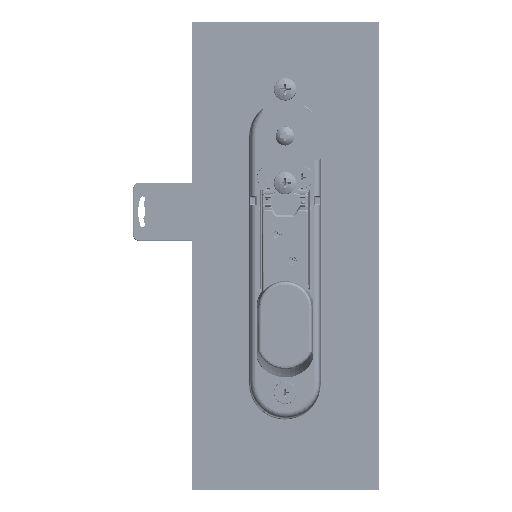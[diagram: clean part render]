
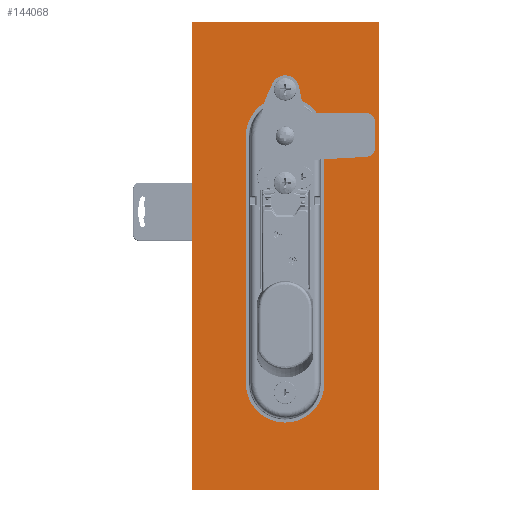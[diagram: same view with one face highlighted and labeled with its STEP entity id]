
A CAD part, front view. The second image highlights one B-rep face of the part: STEP entity #144068.
In plain terms, the highlighted planar face has unit normal (0, -1, 0) as drawn and (0, 0, 1) by its records, which use the part's own axes.
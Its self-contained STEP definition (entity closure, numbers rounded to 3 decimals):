
#143875=DIRECTION('',(0.,1.,0.));
#143876=VECTOR('',#143875,250.);
#143877=CARTESIAN_POINT('',(-50.,-125.,2.));
#143878=LINE('',#143877,#143876);
#143879=DIRECTION('',(1.,0.,0.));
#143880=VECTOR('',#143879,100.);
#143881=CARTESIAN_POINT('',(-50.,125.,2.));
#143882=LINE('',#143881,#143880);
#143883=DIRECTION('',(0.,-1.,0.));
#143884=VECTOR('',#143883,250.);
#143885=CARTESIAN_POINT('',(50.,125.,2.));
#143886=LINE('',#143885,#143884);
#143887=DIRECTION('',(-1.,0.,0.));
#143888=VECTOR('',#143887,100.);
#143889=CARTESIAN_POINT('',(50.,-125.,2.));
#143890=LINE('',#143889,#143888);
#143891=CARTESIAN_POINT('',(0.,64.,2.));
#143892=DIRECTION('',(0.,0.,1.));
#143893=DIRECTION('',(1.,0.,0.));
#143894=AXIS2_PLACEMENT_3D('',#143891,#143892,#143893);
#143896=DIRECTION('',(0.,-1.,0.));
#143897=VECTOR('',#143896,128.);
#143898=CARTESIAN_POINT('',(-16.,64.,2.));
#143899=LINE('',#143898,#143897);
#143900=CARTESIAN_POINT('',(0.,-64.,2.));
#143901=DIRECTION('',(0.,0.,1.));
#143902=DIRECTION('',(-1.,0.,0.));
#143903=AXIS2_PLACEMENT_3D('',#143900,#143901,#143902);
#143905=DIRECTION('',(0.,1.,0.));
#143906=VECTOR('',#143905,128.);
#143907=CARTESIAN_POINT('',(16.,-64.,2.));
#143908=LINE('',#143907,#143906);
#143949=CARTESIAN_POINT('',(-50.,125.,2.));
#143950=VERTEX_POINT('',#143949);
#143951=CARTESIAN_POINT('',(-50.,-125.,2.));
#143952=VERTEX_POINT('',#143951);
#143953=CARTESIAN_POINT('',(50.,125.,2.));
#143954=VERTEX_POINT('',#143953);
#143955=CARTESIAN_POINT('',(50.,-125.,2.));
#143956=VERTEX_POINT('',#143955);
#143957=CARTESIAN_POINT('',(16.,64.,2.));
#143958=CARTESIAN_POINT('',(-16.,64.,2.));
#143959=VERTEX_POINT('',#143957);
#143960=VERTEX_POINT('',#143958);
#143961=CARTESIAN_POINT('',(-16.,-64.,2.));
#143962=VERTEX_POINT('',#143961);
#143963=CARTESIAN_POINT('',(16.,-64.,2.));
#143964=VERTEX_POINT('',#143963);
#144047=CARTESIAN_POINT('',(0.,0.,2.));
#144048=DIRECTION('',(0.,0.,1.));
#144049=DIRECTION('',(1.,0.,0.));
#144050=AXIS2_PLACEMENT_3D('',#144047,#144048,#144049);
#144051=PLANE('',#144050);
#144052=ORIENTED_EDGE('',*,*,#143999,.T.);
#144053=ORIENTED_EDGE('',*,*,#144014,.T.);
#144054=ORIENTED_EDGE('',*,*,#144028,.T.);
#144055=ORIENTED_EDGE('',*,*,#144041,.T.);
#144056=EDGE_LOOP('',(#144052,#144053,#144054,#144055));
#144057=FACE_OUTER_BOUND('',#144056,.F.);
#144059=ORIENTED_EDGE('',*,*,#144058,.T.);
#144061=ORIENTED_EDGE('',*,*,#144060,.T.);
#144063=ORIENTED_EDGE('',*,*,#144062,.T.);
#144065=ORIENTED_EDGE('',*,*,#144064,.T.);
#144066=EDGE_LOOP('',(#144059,#144061,#144063,#144065));
#144067=FACE_BOUND('',#144066,.F.);
#143895=CIRCLE('',#143894,16.);
#143904=CIRCLE('',#143903,16.);
#143999=EDGE_CURVE('',#143952,#143950,#143878,.T.);
#144014=EDGE_CURVE('',#143950,#143954,#143882,.T.);
#144028=EDGE_CURVE('',#143954,#143956,#143886,.T.);
#144041=EDGE_CURVE('',#143956,#143952,#143890,.T.);
#144058=EDGE_CURVE('',#143959,#143960,#143895,.T.);
#144060=EDGE_CURVE('',#143960,#143962,#143899,.T.);
#144062=EDGE_CURVE('',#143962,#143964,#143904,.T.);
#144064=EDGE_CURVE('',#143964,#143959,#143908,.T.);
#144068=ADVANCED_FACE('',(#144057,#144067),#144051,.T.);
